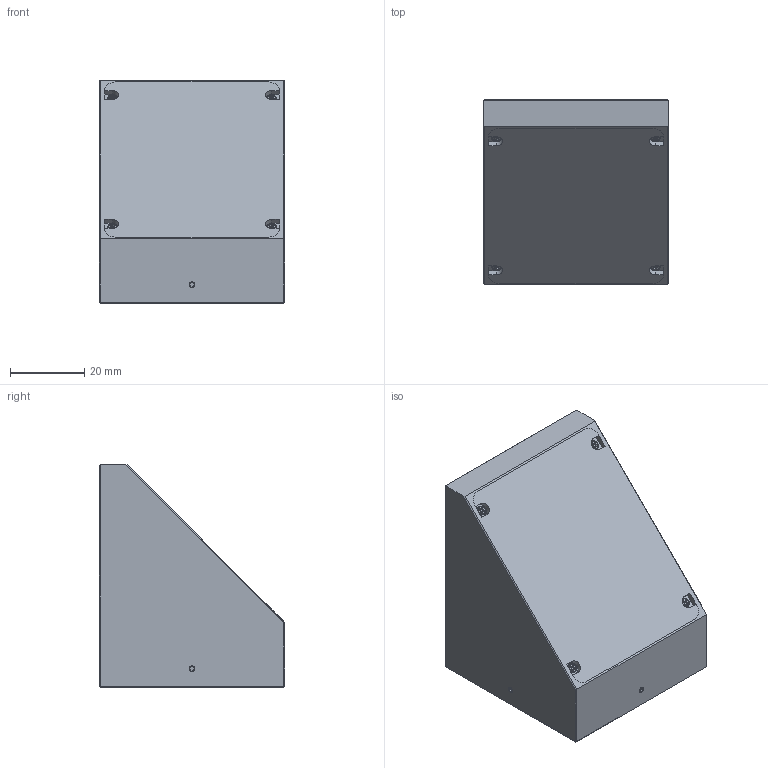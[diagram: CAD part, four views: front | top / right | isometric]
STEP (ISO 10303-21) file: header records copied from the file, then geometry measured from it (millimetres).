
FILE_DESCRIPTION (( 'STEP AP214' ), '1' );
FILE_NAME ('MML-PL45HR.STEP', '2026-02-24T06:30:31', ( '' ), ( '' ), 'SwSTEP 2.0', 'SolidWorks 2025', '' );
FILE_SCHEMA (( 'AUTOMOTIVE_DESIGN' ));
Length unit declared in the file: millimetre
Products named in the file (1): MML-PL45HR
Bounding box: 50 x 50 x 60 mm (x, y, z)
Volume: 41890.4 mm3; surface area: 19832 mm2
Topology: 1 solids, 1 shells, 243 faces, 617 edges, 390 vertices
Faces by surface type: plane 139, cone 44, cylinder 44, torus 8, sphere 8
Entity records: 7591 total; most frequent: CARTESIAN_POINT 1648, DIRECTION 1273, ORIENTED_EDGE 1218, EDGE_CURVE 609, AXIS2_PLACEMENT_3D 469, VERTEX_POINT 390, VECTOR 335, LINE 335
